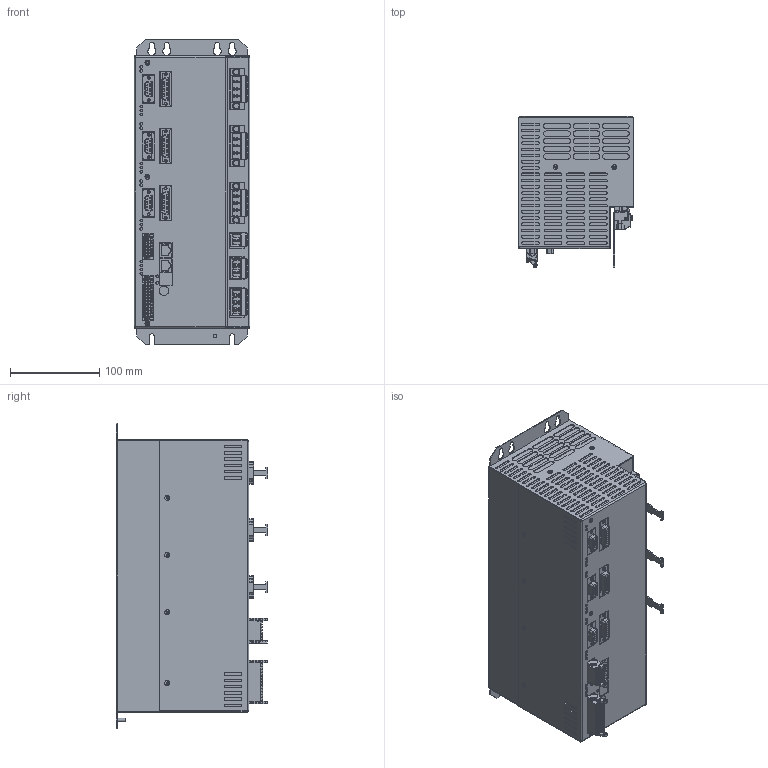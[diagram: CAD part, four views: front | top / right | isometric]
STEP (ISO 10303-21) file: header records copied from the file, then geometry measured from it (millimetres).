
FILE_DESCRIPTION (( 'STEP AP203' ), '1' );
FILE_NAME ('GIN-SAC4x3.STEP', '2014-05-20T08:12:48', ( '' ), ( '' ), 'SwSTEP 2.0', 'SolidWorks 2014', '' );
FILE_SCHEMA (( 'CONFIG_CONTROL_DESIGN' ));
Products named in the file (1): GIN-SAC4x3
Bounding box: 129.9 x 169.7 x 343 mm (x, y, z)
Surface area: 369506.9 mm2 (no closed solid volume)
Topology: 0 solids, 142 shells, 2727 faces, 10743 edges, 8180 vertices
Faces by surface type: plane 1547, cylinder 1006, bspline 87, torus 44, cone 42, sphere 1
Full cylindrical faces by diameter (mm): 0.6 x4, 1.143 x72, 2.261 x12, 2.4 x4, 3 x57, 3.048 x11, 4 x22, 5.4 x21, 6.4 x6, 10.5 x1
Entity records: 120043 total; most frequent: CARTESIAN_POINT 33460, DIRECTION 17790, ORIENTED_EDGE 15320, EDGE_CURVE 10350, VERTEX_POINT 8069, VECTOR 6438, LINE 6438, AXIS2_PLACEMENT_3D 5676
